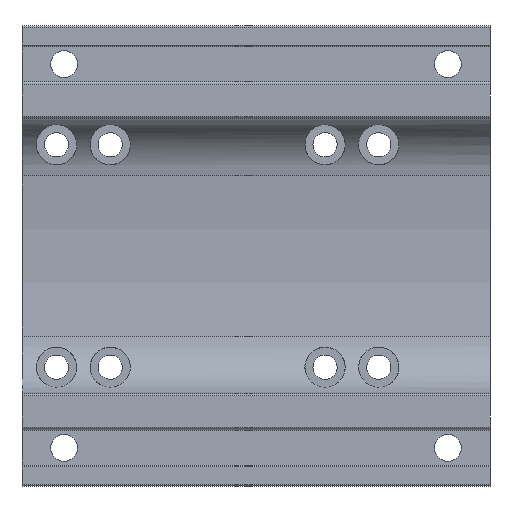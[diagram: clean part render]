
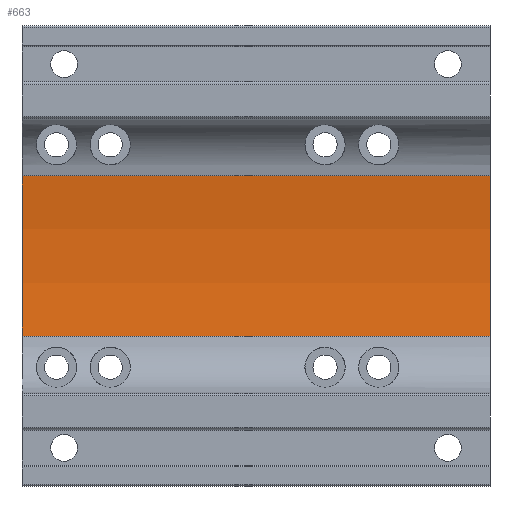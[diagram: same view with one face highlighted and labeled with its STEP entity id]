
A CAD part, front view. The second image highlights one B-rep face of the part: STEP entity #663.
In plain terms, the highlighted cylindrical face has radius 160 mm (diameter 320 mm), a partial arc.
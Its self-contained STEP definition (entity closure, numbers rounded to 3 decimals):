
#59 = EDGE_CURVE ( 'NONE', #1133, #1851, #1972, .T. ) ;
#131 = LINE ( 'NONE', #1742, #930 ) ;
#265 = CYLINDRICAL_SURFACE ( 'NONE', #481, 160. ) ;
#358 = ORIENTED_EDGE ( 'NONE', *, *, #1964, .F. ) ;
#364 = AXIS2_PLACEMENT_3D ( 'NONE', #2036, #2068, #2082 ) ;
#481 = AXIS2_PLACEMENT_3D ( 'NONE', #837, #914, #805 ) ;
#527 = EDGE_CURVE ( 'NONE', #2881, #1851, #131, .T. ) ;
#663 = ADVANCED_FACE ( 'NONE', ( #3595 ), #265, .F. ) ;
#664 = LINE ( 'NONE', #1230, #2899 ) ;
#805 = DIRECTION ( 'NONE',  ( 0., 0., 1. ) ) ;
#837 = CARTESIAN_POINT ( 'NONE',  ( 122., -143., 0. ) ) ;
#914 = DIRECTION ( 'NONE',  ( -1., 0., 0. ) ) ;
#930 = VECTOR ( 'NONE', #2950, 1000. ) ;
#953 = ORIENTED_EDGE ( 'NONE', *, *, #1585, .T. ) ;
#1133 = VERTEX_POINT ( 'NONE', #2054 ) ;
#1173 = CARTESIAN_POINT ( 'NONE',  ( 122., 15.633, -20.867 ) ) ;
#1230 = CARTESIAN_POINT ( 'NONE',  ( 122., 15.633, 20.867 ) ) ;
#1234 = DIRECTION ( 'NONE',  ( -1., 0., 0. ) ) ;
#1288 = CARTESIAN_POINT ( 'NONE',  ( 122., -143., 0. ) ) ;
#1494 = CARTESIAN_POINT ( 'NONE',  ( 0., 15.633, -20.867 ) ) ;
#1563 = DIRECTION ( 'NONE',  ( 0., 0., -1. ) ) ;
#1585 = EDGE_CURVE ( 'NONE', #2666, #1133, #664, .T. ) ;
#1738 = CARTESIAN_POINT ( 'NONE',  ( 122., 15.633, 20.867 ) ) ;
#1742 = CARTESIAN_POINT ( 'NONE',  ( 122., 15.633, -20.867 ) ) ;
#1851 = VERTEX_POINT ( 'NONE', #1494 ) ;
#1964 = EDGE_CURVE ( 'NONE', #2666, #2881, #2151, .T. ) ;
#1972 = CIRCLE ( 'NONE', #364, 160. ) ;
#2036 = CARTESIAN_POINT ( 'NONE',  ( 0., -143., 0. ) ) ;
#2054 = CARTESIAN_POINT ( 'NONE',  ( 0., 15.633, 20.867 ) ) ;
#2068 = DIRECTION ( 'NONE',  ( -1., 0., 0. ) ) ;
#2082 = DIRECTION ( 'NONE',  ( 0., 0., -1. ) ) ;
#2151 = CIRCLE ( 'NONE', #2759, 160. ) ;
#2264 = ORIENTED_EDGE ( 'NONE', *, *, #527, .F. ) ;
#2666 = VERTEX_POINT ( 'NONE', #1738 ) ;
#2759 = AXIS2_PLACEMENT_3D ( 'NONE', #1288, #3288, #1563 ) ;
#2881 = VERTEX_POINT ( 'NONE', #1173 ) ;
#2899 = VECTOR ( 'NONE', #1234, 1000. ) ;
#2950 = DIRECTION ( 'NONE',  ( -1., 0., 0. ) ) ;
#3129 = EDGE_LOOP ( 'NONE', ( #3311, #2264, #358, #953 ) ) ;
#3288 = DIRECTION ( 'NONE',  ( -1., 0., 0. ) ) ;
#3311 = ORIENTED_EDGE ( 'NONE', *, *, #59, .T. ) ;
#3595 = FACE_OUTER_BOUND ( 'NONE', #3129, .T. ) ;
